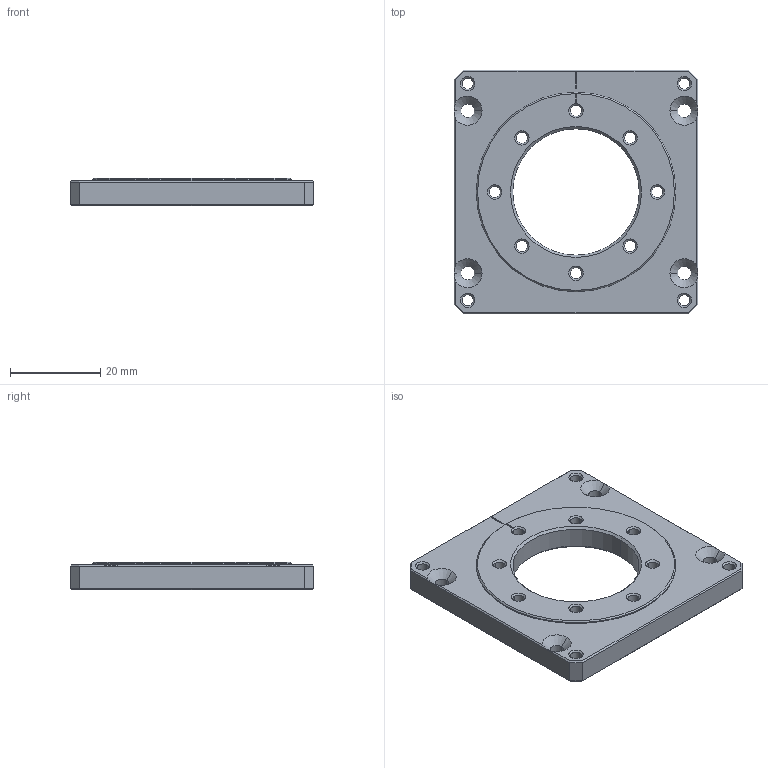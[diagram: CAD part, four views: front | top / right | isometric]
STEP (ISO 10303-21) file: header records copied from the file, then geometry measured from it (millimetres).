
FILE_DESCRIPTION((''),'2;1');
FILE_NAME('H54-IDLER','2013-01-31T',('yunever'),(''),'PRO/ENGINEER BY PARAMETRIC TECHNOLOGY CORPORATION, 2011220','PRO/ENGINEER BY PARAMETRIC TECHNOLOGY CORPORATION, 2011220','');
FILE_SCHEMA(('CONFIG_CONTROL_DESIGN'));
Length unit declared in the file: millimetre
Products named in the file (1): H54-IDLER
Bounding box: 54 x 54 x 6 mm (x, y, z)
Volume: 11999.5 mm3; surface area: 6729.3 mm2
Topology: 1 solids, 1 shells, 109 faces, 276 edges, 166 vertices
Faces by surface type: cylinder 38, cone 38, plane 33
Entity records: 3372 total; most frequent: DIRECTION 598, CARTESIAN_POINT 587, ORIENTED_EDGE 552, EDGE_CURVE 276, AXIS2_PLACEMENT_3D 225, VERTEX_POINT 166, VECTOR 148, LINE 148
